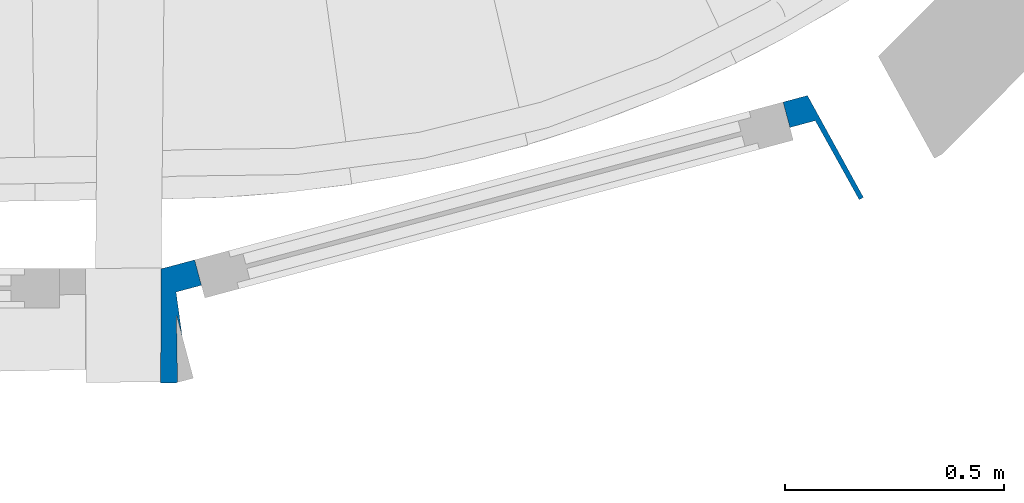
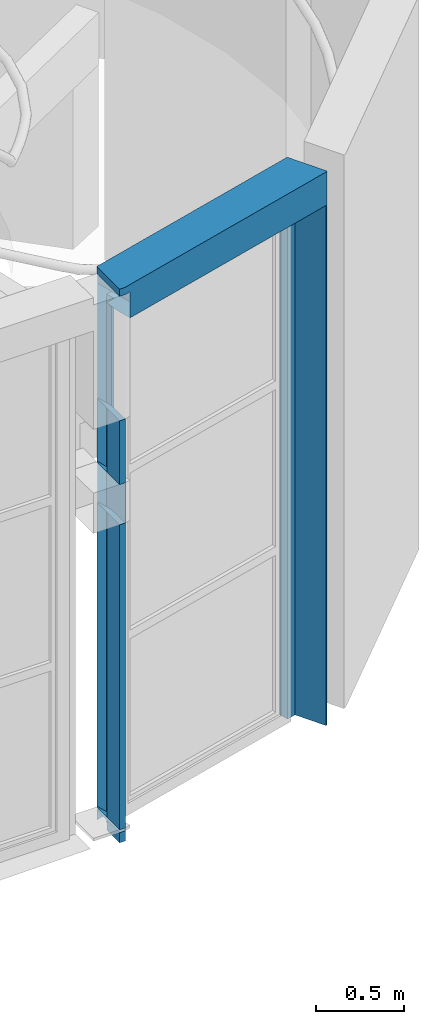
# One storey, part 41 of 66: 1 wall, 1 opening.
"""IFC2X3 building model written with IfcOpenShell, lengths in centimetres."""

from ifc_helpers import new_model, entity, si_unit, converted_unit, direction, frame, origin, origin_with_axes, place, context, subcontext, project, spatial, faceted_brep, shape, material, layer, layer_set, layer_usage, type_object, element, save


model = new_model("IFC2X3")

# Units and contexts
model_context = context("Model", 3, precision=0.0001, world=origin(), true_north=direction((0.225632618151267, 0.974212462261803, 0.0)))
body_context = subcontext(model_context, "Body", "Model", "MODEL_VIEW")
footprint_context = subcontext(model_context, "FootPrint", "Model", "MODEL_VIEW")
profile_context = subcontext(model_context, "Profile", "Model", "MODEL_VIEW")
ifc_project = project(units=[si_unit("LENGTHUNIT", "METRE", prefix="CENTI"), si_unit("AREAUNIT", "SQUARE_METRE", prefix="CENTI"), si_unit("VOLUMEUNIT", "CUBIC_METRE", prefix="CENTI"), converted_unit("PLANEANGLEUNIT", "DEGREE", entity("IfcRatioMeasure", 0.0174532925), si_unit("PLANEANGLEUNIT", "RADIAN"), dimensions=[0, 0, 0, 0, 0, 0, 0])], contexts=[model_context])

# Site, building, storey
site_placement = place(None, origin_with_axes())
site = spatial("IfcSite", under=ifc_project, at=site_placement, Name="Default Site", CompositionType="ELEMENT")
building_placement = place(site_placement, origin_with_axes())
building = spatial("IfcBuilding", under=site, at=building_placement, Name="Default Building", CompositionType="ELEMENT")
storey_placement = place(building_placement, frame((0.0, 0.0, 477.795358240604), z_axis=(0.0, 0.0, 1.0), x_axis=(1.0, 0.0, 0.0)))
storey = spatial("IfcBuildingStorey", under=building, at=storey_placement, Name="Niveau 1", CompositionType="ELEMENT", Elevation=477.795358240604)

# Wall, opening
ifc_material = material(Name="<aucun>")
ifc_layer = layer(ifc_material, 26.0)
ifc_layer_set = layer_set([ifc_layer], Name="default")
ifc_layer_usage = layer_usage(ifc_layer_set, "AXIS2", "POSITIVE", -13.0)
wall_type = type_object("IfcWallType", Name="default 260", PredefinedType="NOTDEFINED", material=ifc_layer_set)
wall_placement = place(storey_placement, frame((1306.20294685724, -885.628979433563, -6.9999999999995), z_axis=(0.0, 0.0, 1.0), x_axis=(0.965884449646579, 0.258973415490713, 0.0)))
wall = element("IfcWall", 1, at=wall_placement, inside=storey, type_object=wall_type, material=ifc_layer_usage, Name="Enveloppe 532433", context=body_context, shape_type="Brep", body=[
    faceted_brep([(11.282585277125, 13.0000267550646, 1.99998515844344), (11.282585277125, 13.0000267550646, -1.29342079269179e-05), (3.39536735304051, 13.0000267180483, -1.29342079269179e-05), (3.39536735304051, 13.0000267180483, 1.99998515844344), (4.01670514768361, 13.0000267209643, 1.99998515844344), (11.282585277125, 13.0000267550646, 72.9999889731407), (4.01670514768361, 13.0000267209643, 7.01283115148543), (4.01670514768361, 13.0000267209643, 9.00000232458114), (4.01670514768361, 13.0000267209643, 72.9999889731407), (4.01670514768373, 13.0000008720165, 1.99998515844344), (3.39536735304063, 13.0000008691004, 1.99998515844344), (3.39536735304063, 13.0000008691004, 7.01283115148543), (4.01670514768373, 13.0000008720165, 7.01283115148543), (4.01670514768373, 13.0000008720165, 9.00000232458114), (3.39536735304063, 13.0000008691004, 9.00000232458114), (3.39536735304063, 13.0000008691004, 72.9999889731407), (4.01670514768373, 13.0000008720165, 72.9999889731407), (11.282585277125, 13.0000267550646, 215.115009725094), (3.39536735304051, 13.0000267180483, 72.9999889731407), (3.39536735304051, 13.0000267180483, 215.115009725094), (4.01670514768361, 13.0000267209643, 215.115009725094), (155.992812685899, 12.9999863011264, 381.115042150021), (155.992812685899, 12.9999863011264, 215.115009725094), (150.234138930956, 12.9999862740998, 215.115009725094), (150.234138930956, 12.9999862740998, 360.000025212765), (11.2825852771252, 12.9999856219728, 360.000025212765), (11.2825852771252, 12.9999856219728, 215.115009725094), (4.0167051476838, 12.9999855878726, 215.115009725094), (4.0167051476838, 12.9999855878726, 220.000015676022), (4.0167051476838, 12.9999855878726, 237.999998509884), (4.0167051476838, 12.9999855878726, 245.11502879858), (4.0167051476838, 12.9999855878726, 247.80000346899), (4.0167051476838, 12.9999855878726, 291.999994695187), (4.0167051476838, 12.9999855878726, 293.999992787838), (4.0167051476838, 12.9999855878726, 371.115004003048), (4.0167051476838, 12.9999855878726, 378.11497348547), (4.0167051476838, 12.9999855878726, 381.115042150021), (4.01670514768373, 13.0000008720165, 215.115009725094), (3.39536735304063, 13.0000008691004, 215.115009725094), (3.39536735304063, 13.0000008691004, 220.000015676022), (4.01670514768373, 13.0000008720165, 220.000015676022), (4.01670514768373, 13.0000008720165, 247.80000346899), (3.39536735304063, 13.0000008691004, 247.80000346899), (3.39536735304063, 13.0000008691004, 291.999994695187), (4.01670514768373, 13.0000008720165, 291.999994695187), (4.01670514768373, 13.0000008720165, 378.11497348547), (3.39536735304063, 13.0000008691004, 378.11497348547), (3.39536735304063, 13.0000008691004, 381.115042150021), (4.01670514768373, 13.0000008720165, 381.115042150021), (3.39536735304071, 12.9999855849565, 381.115042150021), (3.39536735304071, 12.9999855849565, 383.114992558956), (13.0142995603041, 12.9999856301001, 383.114992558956), (149.234155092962, 12.9999862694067, 383.114992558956), (155.992812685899, 12.9999863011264, 383.114992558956), (155.992812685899, 12.9999863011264, 72.9999889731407), (150.234138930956, 12.9999862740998, 72.9999889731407), (155.992812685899, 12.9999863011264, 1.99998515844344), (150.234138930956, 12.9999862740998, 1.99998515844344), (155.992812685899, 12.9999863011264, -1.29342079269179e-05), (150.234138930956, 12.9999862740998, -1.29342079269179e-05), (-0.107380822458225, -13.0000052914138, 1.99998515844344), (-0.107380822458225, -13.0000052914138, -1.29342079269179e-05), (0.2826239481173, -13.0000052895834, -1.29342079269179e-05), (0.2826239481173, -13.0000052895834, 1.99998515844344), (-0.107380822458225, -13.0000052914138, 7.01283115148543), (0.2826239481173, -13.0000052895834, 7.01283115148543), (-0.107380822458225, -13.0000052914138, 72.9999889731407), (-0.107380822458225, -13.0000052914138, 9.00000232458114), (0.2826239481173, -13.0000052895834, 9.00000232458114), (0.2826239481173, -13.0000052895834, 72.9999889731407), (-0.107380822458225, -13.0000052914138, 215.115009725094), (0.2826239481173, -13.0000052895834, 215.115009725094), (-0.107380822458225, -13.0000052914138, 220.000015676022), (0.2826239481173, -13.0000052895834, 220.000015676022), (4.01671422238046, -13.0000167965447, 381.115042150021), (4.01671422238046, -13.0000167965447, 378.11497348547), (4.01671422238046, -13.0000167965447, 371.115004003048), (4.01671422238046, -13.0000167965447, 360.000025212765), (161.234118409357, -13.0000160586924, 360.000025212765), (161.234118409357, -13.0000160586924, 381.115042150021), (-0.107380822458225, -13.0000052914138, 291.999994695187), (-0.107380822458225, -13.0000052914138, 247.80000346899), (0.2826239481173, -13.0000052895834, 247.80000346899), (0.2826239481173, -13.0000052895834, 291.999994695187), (-0.107380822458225, -13.0000052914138, 378.11497348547), (0.636494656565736, -13.0000052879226, 378.11497348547), (0.636494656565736, -13.0000052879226, 381.115042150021), (-0.107380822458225, -13.0000052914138, 381.115042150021), (0.636494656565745, -13.0000071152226, 378.11497348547), (4.01671422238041, -13.0000070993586, 378.11497348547), (4.01671422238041, -13.0000070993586, 381.115042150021), (0.636494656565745, -13.0000071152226, 381.115042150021), (4.0167142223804, -13.0000052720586, 381.115042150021), (161.234118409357, -13.0000045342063, 381.115042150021), (161.234118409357, -13.0000045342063, 383.114992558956), (1.01426227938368, -13.0000052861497, 383.114992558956), (5.08294715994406e-05, -13.0000052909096, 383.114992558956), (-0.107380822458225, -13.0000052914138, 383.114992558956), (161.234118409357, -13.0000229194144, -1.29342079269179e-05), (156.234194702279, 6.99995809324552, -1.29342079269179e-05), (150.234125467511, 6.99999625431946, -1.29342079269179e-05), (150.234138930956, 12.9999733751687, -1.29342079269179e-05), (162.30760635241, -12.7366047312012, -1.29342079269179e-05), (162.30760635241, -12.7366047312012, 1.99998515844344), (161.234201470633, -8.36179758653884, -1.29342079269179e-05), (161.234201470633, -8.36179758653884, 1.99998515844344), (0.282594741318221, 1.6570377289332, 1.99998515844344), (0.282594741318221, 1.6570377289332, -1.29342079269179e-05), (-3.48529371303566, -12.0729907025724, -1.29342079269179e-05), (-3.48529371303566, -12.0729907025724, 1.99998515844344), (0.282623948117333, -13.0000122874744, 7.01283115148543), (0.636494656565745, -13.0000071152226, 7.01283115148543), (0.304588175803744, -12.9122010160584, 7.01283115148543), (-3.44352725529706, -11.9208800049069, 7.01283115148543), (-3.48529827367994, -12.0729894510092, 7.01283115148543), (-3.44352725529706, -11.9208800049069, 1.99998515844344), (-3.48527213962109, -12.0729966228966, 1.99998515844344), (-3.48527213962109, -12.0729966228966, 7.01283115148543), (162.30760635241, -12.7366047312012, 72.9999889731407), (161.234201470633, -8.36179758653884, 72.9999889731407), (3.39536735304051, 13.0000268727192, 7.01283115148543), (4.01671422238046, -13.0000167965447, 7.01283115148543), (0.282594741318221, 1.6570377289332, 7.01283115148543), (-3.44354882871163, -11.9208740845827, 1.99998515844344), (-3.44354882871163, -11.9208740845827, 7.01283115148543), (-3.48529827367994, -12.0729894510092, 9.00000232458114), (-3.44352725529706, -11.9208800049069, 9.00000232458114), (0.304588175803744, -12.9122010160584, 9.00000232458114), (0.636494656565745, -13.0000071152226, 9.00000232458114), (0.282623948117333, -13.0000122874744, 9.00000232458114), (-3.48527213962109, -12.0729966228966, 9.00000232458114), (-3.48527213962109, -12.0729966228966, 72.9999889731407), (-3.44352725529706, -11.9208800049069, 72.9999889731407), (4.01671422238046, -13.0000167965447, 9.00000232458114), (3.39536735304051, 13.0000268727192, 9.00000232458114), (0.282594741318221, 1.6570377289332, 72.9999889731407), (0.282594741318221, 1.6570377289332, 9.00000232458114), (-3.44354882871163, -11.9208740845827, 9.00000232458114), (-3.44354882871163, -11.9208740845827, 72.9999889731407), (-3.48527213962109, -12.0729966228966, 215.115009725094), (-3.44352725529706, -11.9208800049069, 215.115009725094), (162.30760635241, -12.7366047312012, 215.115009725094), (161.234201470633, -8.36179758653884, 215.115009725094), (0.282594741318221, 1.6570377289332, 215.115009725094), (-3.44354882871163, -11.9208740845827, 215.115009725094), (0.282623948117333, -13.0000122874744, 220.000015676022), (0.636494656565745, -13.0000071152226, 220.000015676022), (0.304588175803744, -12.9122010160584, 220.000015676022), (-3.44352725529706, -11.9208800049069, 220.000015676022), (-3.48529827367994, -12.0729894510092, 220.000015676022), (-3.48527213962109, -12.0729966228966, 220.000015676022), (162.30760635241, -12.7366047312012, 381.115042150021), (161.234201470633, -8.36179758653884, 360.000025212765), (155.992860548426, 12.9999980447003, 360.000025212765), (155.992860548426, 12.9999980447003, 381.115042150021), (4.01671410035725, 13.0000008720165, 378.11497348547), (4.01671410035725, 13.0000008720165, 371.115004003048), (3.39536735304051, 13.0000268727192, 220.000015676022), (4.01671422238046, -13.0000167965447, 220.000015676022), (0.282594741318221, 1.6570377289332, 220.000015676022), (-3.44354882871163, -11.9208740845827, 220.000015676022), (-3.48529827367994, -12.0729894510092, 247.80000346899), (-3.44352725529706, -11.9208800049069, 247.80000346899), (0.304588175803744, -12.9122010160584, 247.80000346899), (0.636494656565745, -13.0000071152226, 247.80000346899), (0.282623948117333, -13.0000122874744, 247.80000346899), (0.282623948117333, -13.0000122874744, 291.999994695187), (0.636494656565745, -13.0000071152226, 291.999994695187), (0.304588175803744, -12.9122010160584, 291.999994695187), (-3.44352725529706, -11.9208800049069, 291.999994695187), (-3.48529827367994, -12.0729894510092, 291.999994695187), (-3.48527213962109, -12.0729966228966, 247.80000346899), (-3.48527213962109, -12.0729966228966, 291.999994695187), (4.01671422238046, -13.0000167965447, 247.80000346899), (3.39536735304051, 13.0000268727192, 247.80000346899), (3.39536735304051, 13.0000268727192, 291.999994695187), (4.01671422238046, -13.0000167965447, 291.999994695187), (0.282594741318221, 1.6570377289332, 291.999994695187), (0.282594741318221, 1.6570377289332, 247.80000346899), (-3.44354882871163, -11.9208740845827, 247.80000346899), (-3.44354882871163, -11.9208740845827, 291.999994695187), (-3.48529827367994, -12.0729894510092, 378.11497348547), (-3.44352725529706, -11.9208800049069, 378.11497348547), (-3.48527213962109, -12.0729966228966, 378.11497348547), (-3.48527213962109, -12.0729966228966, 381.115042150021), (-3.44352725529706, -11.9208800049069, 381.115042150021), (3.39536735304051, 13.0000268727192, 378.11497348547), (-3.44359362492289, -11.9208617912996, 378.11497348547), (-3.44359362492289, -11.9208617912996, 381.115042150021), (3.39536735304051, 13.0000268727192, 381.115042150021), (149.234189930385, 8.00002839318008, 383.114992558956), (156.234150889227, 7.99996662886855, 383.114992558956), (161.234118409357, -13.0000229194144, 383.114992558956), (162.30760635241, -12.7366047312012, 383.114992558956), (149.234155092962, 13.0000216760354, 383.114992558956), (155.992860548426, 12.9999980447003, 383.114992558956), (-3.48533850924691, -12.0729784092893, 381.115042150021), (-3.48533850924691, -12.0729784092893, 383.114992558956), (3.39536735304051, 13.0000268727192, 383.114992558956), (11.2825718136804, 7.0000496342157, 360.000025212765), (11.2825718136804, 7.0000496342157, -1.29342079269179e-05), (11.2825717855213, 13.0000267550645, -1.29342079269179e-05), (11.2825717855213, 13.0000267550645, 1.99998515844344), (11.2825717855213, 13.0000267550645, 72.9999889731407), (11.2825717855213, 13.0000267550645, 215.115009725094), (11.2825717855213, 13.0000267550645, 360.000025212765), (5.28256999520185, 6.99997098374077, 360.000025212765), (5.28256999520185, 6.99997098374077, 291.999994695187), (5.28256999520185, 6.99997098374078, 247.80000346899), (5.28256999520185, 6.99997098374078, 220.000015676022), (5.28256999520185, 6.99997098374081, 9.00000232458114), (5.28256999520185, 6.99997098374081, 7.01283115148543), (5.28256999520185, 6.99997098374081, -1.29342079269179e-05), (11.2825718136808, 6.9999710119, -1.29342079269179e-05), (11.2825718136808, 6.99997101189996, 360.000025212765), (4.0167816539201, 1.93652852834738, 7.01283115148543), (0.304598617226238, -12.912203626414, 7.01283115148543), (0.28264512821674, -13.0000175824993, 7.01283115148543), (0.28264512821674, -13.0000175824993, 1.99998515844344), (0.28264512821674, -13.0000175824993, -1.29342079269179e-05), (4.0167816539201, 1.93652852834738, -1.29342079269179e-05), (5.28263801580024, 6.99995397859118, -1.29342079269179e-05), (5.28263801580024, 6.99995397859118, 7.01283115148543), (4.0167816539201, 1.93652852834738, 9.00000232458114), (0.304598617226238, -12.912203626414, 9.00000232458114), (0.28264512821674, -13.0000175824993, 9.00000232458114), (5.28263801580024, 6.99995397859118, 9.00000232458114), (0.282623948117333, -13.0000122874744, 215.115009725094), (0.282623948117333, -13.0000122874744, 72.9999889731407), (0.304577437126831, -12.9121983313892, 9.00000232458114), (4.01676047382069, 1.93653382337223, 9.00000232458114), (4.01676047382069, 1.93653382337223, 220.000015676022), (0.304577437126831, -12.9121983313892, 220.000015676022), (4.01676047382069, 1.93653382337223, 247.80000346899), (0.304577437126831, -12.9121983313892, 247.80000346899), (5.28256999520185, 6.99997098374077, 220.000015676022), (5.28256999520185, 6.99997098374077, 247.80000346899), (4.0167136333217, 1.93654553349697, 247.80000346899), (4.0167136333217, 1.93654553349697, 220.000015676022), (4.0167816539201, 1.93652852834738, 220.000015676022), (5.28263801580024, 6.99995397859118, 220.000015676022), (4.0167136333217, 1.93654553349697, 360.000025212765), (4.0167136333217, 1.93654553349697, 291.999994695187), (4.0167816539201, 1.93652852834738, 291.999994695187), (4.0167816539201, 1.93652852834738, 247.80000346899), (5.28263801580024, 6.99995397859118, 247.80000346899), (5.28263801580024, 6.99995397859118, 291.999994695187), (4.01676047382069, 1.93653382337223, 291.999994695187), (0.304577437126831, -12.9121983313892, 291.999994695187), (150.234125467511, 6.99999625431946, 360.000025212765), (150.234125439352, 12.9999733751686, 360.000025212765), (150.234125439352, 12.9999733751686, 215.115009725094), (150.234125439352, 12.9999733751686, 72.9999889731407), (150.234125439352, 12.9999733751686, 1.99998515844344), (150.234125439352, 12.9999733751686, -1.29342079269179e-05), (156.234194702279, 6.99995809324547, 360.000025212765), (150.234125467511, 6.99995806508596, 360.000025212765), (150.234125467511, 6.99995806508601, -1.29342079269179e-05), (161.234118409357, -13.0000229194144, 1.99998515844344), (161.234118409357, -13.0000229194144, 72.9999889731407), (161.234118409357, -13.0000229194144, 215.115009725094), (161.234118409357, -13.0000229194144, 360.000025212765), (156.234127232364, 6.99994122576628, 360.000025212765), (156.234127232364, 6.99994122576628, -1.29342079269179e-05), (4.0167816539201, 1.93652852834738, 360.000025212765), (11.282585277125, 13.0000267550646, 360.000025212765), (150.234138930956, 12.9999733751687, 360.000025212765), (156.234194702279, 6.99995809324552, 360.000025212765), (6.01425662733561, 7.99997574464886, 383.114992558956), (13.0142422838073, 8.00000609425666, 383.114992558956), (13.0142995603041, 12.9999746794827, 383.114992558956), (-3.48529827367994, -12.0729894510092, 383.114992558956), (1.01426227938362, -12.9999913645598, 383.114992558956), (-3.48529827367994, -12.0729894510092, -1.29342079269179e-05), (-0.107374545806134, -12.9999824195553, -1.29342079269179e-05), (-0.107374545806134, -12.9999824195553, 1.99998515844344), (-3.48529827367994, -12.0729894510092, 1.99998515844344), (-0.107374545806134, -12.9999824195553, 7.01283115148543), (-0.107374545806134, -12.9999824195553, 9.00000232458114), (-0.107374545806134, -12.9999824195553, 72.9999889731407), (-3.48529827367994, -12.0729894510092, 72.9999889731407), (-0.107374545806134, -12.9999824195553, 215.115009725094), (-3.48529827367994, -12.0729894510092, 215.115009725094), (-0.107374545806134, -12.9999824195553, 220.000015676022), (-0.107374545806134, -12.9999824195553, 247.80000346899), (-0.107374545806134, -12.9999824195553, 291.999994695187), (-0.107374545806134, -12.9999824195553, 378.11497348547), (-0.107374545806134, -12.9999824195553, 381.115042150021), (-3.48529827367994, -12.0729894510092, 381.115042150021), (-0.107374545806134, -12.9999824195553, 383.114992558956), (162.307612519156, -12.7366298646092, -1.29342079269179e-05), (162.307612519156, -12.7366298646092, 1.99998515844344), (162.307612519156, -12.7366298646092, 72.9999889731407), (162.307612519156, -12.7366298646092, 215.115009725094), (161.234118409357, -13.0000229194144, 381.115042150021), (162.307612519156, -12.7366298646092, 381.115042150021), (162.307612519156, -12.7366298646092, 383.114992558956)], [[[0, 1, 2, 3, 4]], [[5, 0, 4, 6, 7, 8]], [[9, 10, 11, 12]], [[13, 14, 15, 16]], [[17, 5, 8, 18, 19, 20]], [[21, 22, 23, 24, 25, 26, 27, 28, 29, 30, 31, 32, 33, 34, 35, 36]], [[37, 38, 39, 40]], [[41, 42, 43, 44]], [[45, 46, 47, 48]], [[21, 36, 49, 50, 51, 52, 53]], [[22, 54, 55, 23]], [[54, 56, 57, 55]], [[56, 58, 59, 57]], [[60, 61, 62, 63]], [[64, 60, 63, 65]], [[66, 67, 68, 69]], [[70, 66, 69, 71]], [[72, 70, 71, 73]], [[74, 75, 76, 77, 78, 79]], [[80, 81, 82, 83]], [[84, 85, 86, 87]], [[88, 89, 90, 91]], [[87, 86, 92, 93, 94, 95, 96, 97]], [[98, 99, 100, 101, 58, 102]], [[103, 102, 104, 105]], [[106, 107, 108, 109]], [[64, 110, 111, 112, 113, 114]], [[115, 116, 117, 113]], [[118, 103, 105, 119]], [[12, 120, 113, 111, 121]], [[122, 106, 123, 124]], [[125, 126, 127, 128, 129, 67]], [[126, 130, 131, 132]], [[13, 133, 128, 126, 134]], [[135, 136, 137, 138]], [[132, 131, 139, 140]], [[141, 118, 119, 142]], [[143, 135, 138, 144]], [[72, 145, 146, 147, 148, 149]], [[140, 139, 150, 148]], [[151, 141, 142, 152, 153, 154]], [[75, 155, 156, 76]], [[40, 157, 148, 146, 158]], [[159, 143, 144, 160]], [[161, 162, 163, 164, 165, 81]], [[80, 166, 167, 168, 169, 170]], [[162, 171, 172, 169]], [[41, 173, 164, 162, 174]], [[175, 169, 167, 176, 44]], [[177, 178, 179, 180]], [[181, 182, 88, 84]], [[182, 183, 184, 185]], [[45, 75, 88, 182, 186]], [[186, 187, 188, 189]], [[190, 191, 192, 193, 53, 194]], [[151, 154, 195, 193]], [[189, 196, 197, 198]], [[199, 200, 201, 202, 203, 204, 205]], [[206, 207, 208, 209, 210, 211, 212, 213, 214]], [[215, 216, 217, 218, 219, 220]], [[220, 221, 222, 215]], [[223, 224, 225, 217, 216, 215]], [[215, 222, 226, 223]], [[145, 227, 228, 129, 229, 230, 231, 232]], [[165, 145, 232, 231, 233, 234]], [[235, 236, 237, 238]], [[239, 223, 226, 240]], [[207, 206, 241, 242]], [[243, 244, 245, 246]], [[166, 165, 234, 233, 247, 248]], [[100, 249, 250, 251, 252, 253, 254]], [[99, 255, 256, 257]], [[98, 258, 259, 260, 261, 262, 263]], [[264, 206, 199, 265, 266, 249, 267, 261, 77]], [[268, 269, 270, 198, 271, 97, 272]], [[269, 268, 272, 192, 191, 190, 194, 270]], [[273, 274, 275, 276]], [[276, 275, 277, 114]], [[125, 278, 279, 280]], [[280, 279, 281, 282]], [[282, 281, 283, 149]], [[161, 284, 285, 170]], [[181, 286, 287, 288]], [[288, 287, 289, 271]], [[258, 98, 290, 291]], [[259, 258, 291, 292]], [[260, 259, 292, 293]], [[294, 261, 260, 293, 295]], [[294, 295, 296, 192]]]),
])
opening_placement = place(wall_placement, frame((0.28260412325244, 0.0, -5.32907051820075e-13), z_axis=(0.0, 0.0, 1.0), x_axis=(-1.0, -9.43689570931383e-16, 0.0)))
cartesian_point_1 = entity("IfcCartesianPoint", [0.0, 0.0, 360.0])
cartesian_point_2 = entity("IfcCartesianPoint", [-160.951559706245, -12.9999999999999])
element("IfcOpeningElement", 2, at=opening_placement, cuts=wall, Name="4294966536_11", ObjectType="Opening", shapes=[
    shape(body_context, "Body", "Brep", [faceted_brep([(-11.0000260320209, -32.9999504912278, 360.000025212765), (-149.951604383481, -32.9999511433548, 360.000025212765), (-149.951604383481, -32.9999511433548, -1.29342074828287e-05), (-11.0000260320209, -32.9999504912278, -1.29342074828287e-05), (4.97509130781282e-05, 33.0000281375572, -1.29342074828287e-05), (-160.951561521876, 33.0000273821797, -1.29342074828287e-05), (-160.951561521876, 33.0000273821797, 360.000025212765), (4.97509130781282e-05, 33.0000281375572, 360.000025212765), (-11.0000261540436, -7.0000496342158, -1.29342074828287e-05), (-11.0000261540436, -7.0000496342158, 360.000025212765), (-10.999967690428, -7.00004963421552, 360.000025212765), (-10.999967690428, -7.00004963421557, -1.29342074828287e-05), (-4.99996587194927, -7.00004960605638, -1.29342074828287e-05), (-4.99996587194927, -7.00004960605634, 360.000025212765), (-4.99996587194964, -6.99997098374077, 360.000025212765), (-4.99996587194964, -6.99997098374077, -1.29342074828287e-05), (4.70591718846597, 31.8235612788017, -1.29342074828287e-05), (4.70591718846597, 31.8235612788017, 360.000025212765), (-149.951604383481, -32.9999892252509, -1.29342074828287e-05), (-149.951521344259, -6.99999625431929, -1.29342074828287e-05), (-155.951590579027, -6.99995809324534, -1.29342074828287e-05), (-160.951561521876, 32.9999713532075, -1.29342074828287e-05), (-10.999967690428, -7.00004963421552, -1.29342074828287e-05), (-149.951604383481, -32.9999892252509, 360.000025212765), (-149.951604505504, -6.99999625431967, 360.000025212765), (-149.951604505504, -6.99999625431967, -1.29342074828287e-05), (-149.951521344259, -6.99999625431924, 360.000025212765), (-155.951590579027, -6.99999628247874, 360.000025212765), (-155.951590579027, -6.99999628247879, -1.29342074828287e-05), (-155.951590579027, -6.99995809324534, 360.000025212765), (-165.657454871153, 31.8234979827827, 360.000025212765), (-165.657454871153, 31.8234979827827, -1.29342074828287e-05), (-160.951561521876, 32.9999713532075, 360.000025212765), (-149.951521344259, -6.99999625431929, 360.000025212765)], [[[0, 1, 2, 3]], [[4, 5, 6, 7]], [[0, 3, 8, 9]], [[10, 11, 12, 13]], [[14, 15, 16, 17]], [[3, 18, 19, 20, 21, 4, 15, 22]], [[18, 23, 24, 25]], [[19, 26, 27, 28]], [[20, 29, 30, 31]], [[10, 14, 7, 32, 29, 33, 23, 0]]])]),
    shape(profile_context, "Profile", "GeometricCurveSet", [entity("IfcGeometricCurveSet", [entity("IfcPolyline", [cartesian_point_1, entity("IfcCartesianPoint", [0.0, 0.0, 0.0]), entity("IfcCartesianPoint", [-160.951559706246, 0.0, 0.0]), entity("IfcCartesianPoint", [-160.951559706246, 0.0, 360.0]), cartesian_point_1])])]),
    shape(footprint_context, "FootPrint", "GeometricCurveSet", [entity("IfcGeometricCurveSet", [entity("IfcPolyline", [cartesian_point_2, entity("IfcCartesianPoint", [0.0, -12.9999999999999]), entity("IfcCartesianPoint", [0.0, 12.9999999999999]), entity("IfcCartesianPoint", [-160.951559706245, 13.0000000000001]), cartesian_point_2])])]),
])

save(model, "model.ifc")
